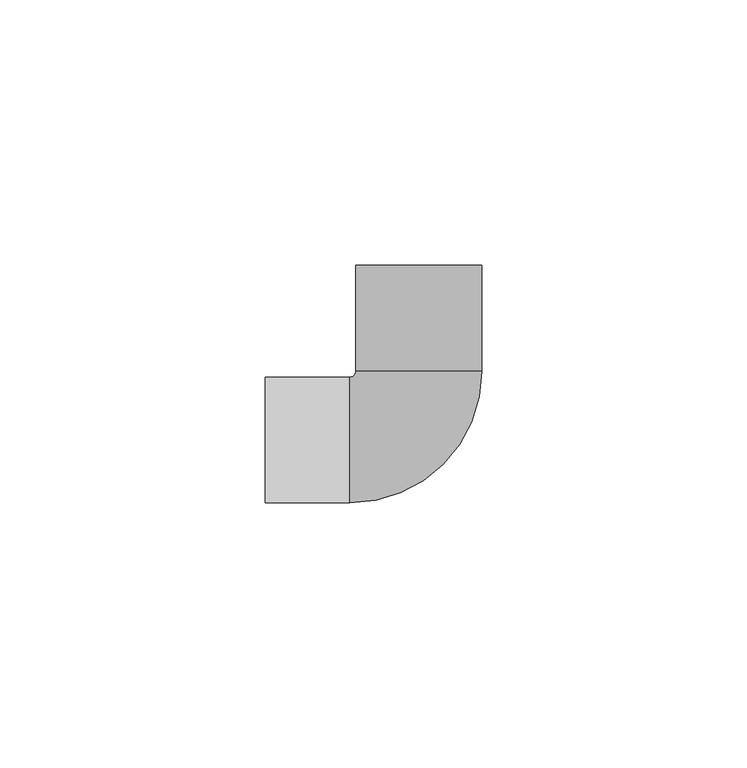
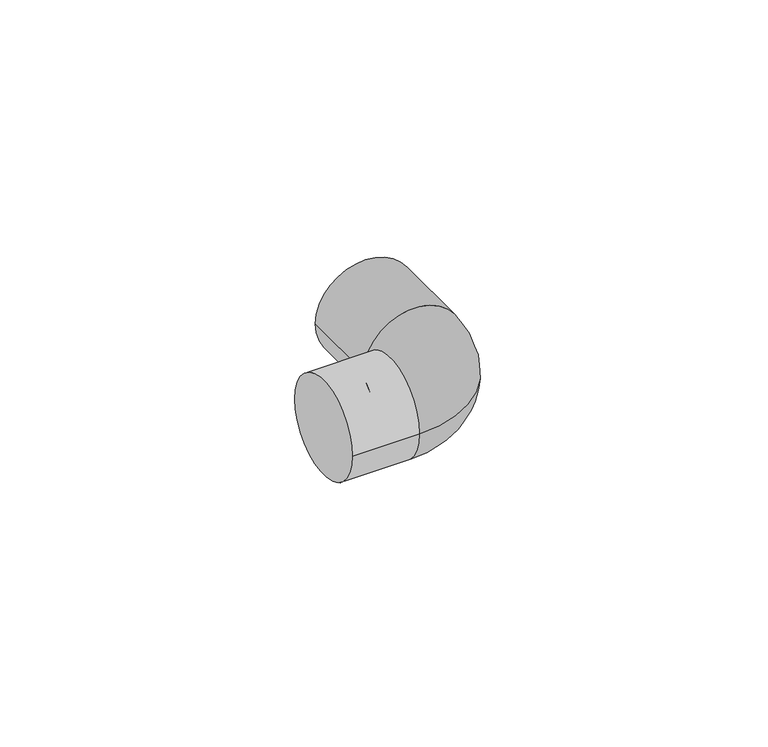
"""IFC4 building model written with IfcOpenShell, lengths in millimetres: pipe fitting geometry, 01101002 : Coudes à 90º."""

from ifc_helpers import new_model, si_unit, point, frame, origin, place, context, project, spatial, circle_curve, ellipse_curve, trimmed, source, transform, mapped, element, save
from ifc_brep_helpers import plane_surface, cylinder_surface, revolved_surface, advanced_brep


def pipe_fitting_07acb42c(model_context):
    return source(origin(), model_context, "Body", "AdvancedBrep", [
        advanced_brep(
        [(-13.0, -11.875, 0.0), (11.875, 13.0, 0.0), (-11.875, 13.0, 0.0), (-13.0, 11.875, 0.0), (-11.875, 33.0, 0.0), (11.875, 33.0, 0.0), (-29.0, 11.875, 0.0), (-29.0, -11.875, 0.0)],
        [
            (0, 1, circle_curve(frame((-13.0, 13.0, 0.0), z_axis=(0.0, 0.0, 1.0), x_axis=(1.0, 0.0, 0.0)), 24.875)),
            (1, 2, circle_curve(frame((0.0, 13.0, 0.0), z_axis=(0.0, -1.0, 0.0), x_axis=(1.0, 0.0, 0.0)), 11.875)),
            (2, 3, circle_curve(frame((-13.0, 13.0, 0.0), z_axis=(0.0, 0.0, -1.0), x_axis=(1.0, 0.0, 0.0)), 1.125)),
            (3, 0, circle_curve(frame((-13.0, 0.0, 0.0), z_axis=(1.0, 0.0, 0.0), x_axis=(0.0, -1.0, 0.0)), 11.875)),
            (2, 1, circle_curve(frame((0.0, 13.0, 0.0), z_axis=(0.0, -1.0, 0.0), x_axis=(1.0, 0.0, 0.0)), 11.875)),
            (0, 3, circle_curve(frame((-13.0, 0.0, 0.0), z_axis=(1.0, 0.0, 0.0), x_axis=(0.0, -1.0, 0.0)), 11.875)),
            (4, 5, circle_curve(frame((0.0, 33.0, 0.0), z_axis=(0.0, 1.0, 0.0), x_axis=(1.0, 0.0, 0.0)), 11.875)),
            (5, 4, circle_curve(frame((0.0, 33.0, 0.0), z_axis=(0.0, 1.0, 0.0), x_axis=(1.0, 0.0, 0.0)), 11.875)),
            (6, 7, circle_curve(frame((-29.0, 0.0, 0.0), z_axis=(-1.0, 0.0, 0.0), x_axis=(0.0, -1.0, 0.0)), 11.875)),
            (7, 6, circle_curve(frame((-29.0, 0.0, 0.0), z_axis=(-1.0, 0.0, 0.0), x_axis=(0.0, -1.0, 0.0)), 11.875)),
            (3, 6),
            (7, 0),
            (4, 2),
            (1, 5),
        ],
        [
            revolved_surface(trimmed(ellipse_curve(frame((0.0, 13.0, 0.0), z_axis=(0.0, 1.0, 0.0), x_axis=(1.0, 0.0, 0.0)), 11.875, 11.875), [point((-11.875, 13.0, 0.0))], [point((11.875, 13.0, 0.0))], True, "CARTESIAN"), (-13.0, 13.0, 0.0), (0.0, 0.0, -1.0)),
            revolved_surface(trimmed(ellipse_curve(frame((0.0, 13.0, 0.0), z_axis=(0.0, 1.0, 0.0), x_axis=(1.0, 0.0, 0.0)), 11.875, 11.875), [point((11.875, 13.0, 0.0))], [point((-11.875, 13.0, 0.0))], True, "CARTESIAN"), (-13.0, 13.0, 0.0), (0.0, 0.0, -1.0)),
            plane_surface(frame((0.0, 33.0, 0.0), z_axis=(0.0, 1.0, 0.0), x_axis=(0.0, 0.0, 1.0))),
            plane_surface(frame((-29.0, 0.0, 0.0), z_axis=(-1.0, 0.0, 0.0), x_axis=(0.0, 0.0, 1.0))),
            cylinder_surface(frame((-13.0, 0.0, 0.0), z_axis=(1.0, 0.0, 0.0), x_axis=(0.0, -1.0, 0.0)), 11.875),
            cylinder_surface(frame((0.0, 33.0, 0.0), z_axis=(0.0, 1.0, 0.0), x_axis=(1.0, 0.0, 0.0)), 11.875),
        ],
        [
            (0, [[1, 2, 3, 4]]),
            (1, [[-3, 5, -1, 6]]),
            (2, [[7, 8]]),
            (3, [[9, 10]]),
            (4, [[-4, 11, -10, 12]]),
            (4, [[-6, -12, -9, -11]]),
            (5, [[-7, 13, -2, 14]]),
            (5, [[-8, -14, -5, -13]]),
        ],
    ),
    ])


if __name__ == "__main__":
    model = new_model("IFC4")
    model_context = context("Model", 3, world=origin())
    ifc_project = project(units=[si_unit("LENGTHUNIT", "METRE", prefix="MILLI")], contexts=[model_context])
    site = spatial("IfcSite", under=ifc_project)
    building = spatial("IfcBuilding", under=site)
    placement = place(None, origin())
    pipe_fitting_shape = pipe_fitting_07acb42c(model_context)
    element("IfcPipeFitting", 1, ObjectType="01101002 : Coudes à 90º", at=placement, inside=building, context=model_context, shape_type="MappedRepresentation", body=[
        mapped(pipe_fitting_shape, transform((0.0, 0.0, 0.0), x_axis=(1.0, 0.0, 0.0), y_axis=(0.0, 1.0, 0.0), z_axis=(0.0, 0.0, 1.0))),
    ])
    save(model, "model.ifc")
